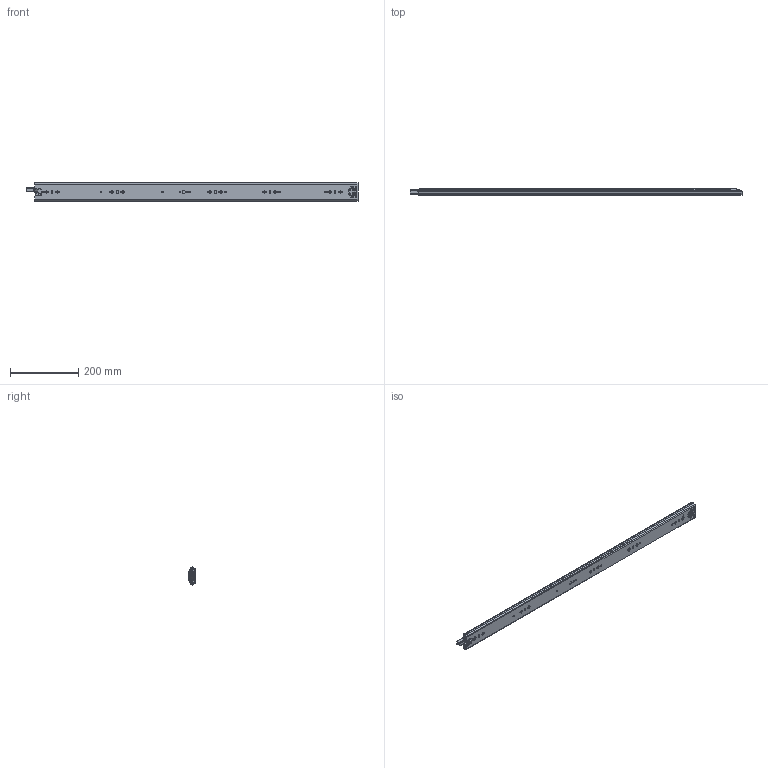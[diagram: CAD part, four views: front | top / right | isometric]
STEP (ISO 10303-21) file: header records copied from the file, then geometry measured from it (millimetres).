
FILE_DESCRIPTION((''),'2;1');
FILE_NAME('1053-3S-38YOU_ASM','2023-04-12T',('jishu015'),(''),'PRO/ENGINEER BY PARAMETRIC TECHNOLOGY CORPORATION, 2010280','PRO/ENGINEER BY PARAMETRIC TECHNOLOGY CORPORATION, 2010280','');
FILE_SCHEMA(('CONFIG_CONTROL_DESIGN'));
Products named in the file (20): 1053-02-18WAIKE______________; 1053WEIJIAO______________; 1053-3S-24WAIKE_______________ASM; 1053ZHUTIAO-175______________; 53-5-6GANZHU______________; 1053ZHUTIAO-175MM_______________ASM; 1053-02-18ZHONGGUI11; ZHONGGUIPEIJIAN____________; ZHONGGUISUOKOU____________; 1053-02-18ZHONGGUI11_ASM; 1053XIAOZHUJIA-14GE1_; 1053XIAOZHUJIA-14GE1__ASM; 1053-02-18NEIGUI______________; DAOPIAN__________; PIAN__________; 1053-3SBANJI123_________; JIAO-11_________; 50XINSUOKOU11________; 1053-02-18NEIGUI_______________ASM; 1053-3S-38YOU_ASM
Assembly tree (104 placements, depth 3):
  1053-3S-38YOU_ASM
    1053-3S-24WAIKE_______________ASM
      1053-02-18WAIKE______________
      1053WEIJIAO______________
    1053ZHUTIAO-175MM_______________ASM  x2
      1053ZHUTIAO-175______________
      53-5-6GANZHU______________
    1053-02-18ZHONGGUI11_ASM
      1053-02-18ZHONGGUI11
      ZHONGGUIPEIJIAN____________
      ZHONGGUISUOKOU____________
    1053XIAOZHUJIA-14GE1__ASM
      1053XIAOZHUJIA-14GE1_
      53-5-6GANZHU______________  x68
    1053-02-18NEIGUI_______________ASM
      1053-02-18NEIGUI______________
      DAOPIAN__________
      PIAN__________
      1053-3SBANJI123_________
      JIAO-11_________
      50XINSUOKOU11________
Bounding box: 975.42 x 18.7 x 53 mm (x, y, z)
Volume: 363258.6 mm3; surface area: 421246.3 mm2
Topology: 117 solids, 117 shells, 2834 faces, 8223 edges, 5123 vertices
Faces by surface type: cylinder 1249, plane 1131, sphere 212, bspline 117, cone 86, extrusion 23, torus 16
Entity records: 90502 total; most frequent: CARTESIAN_POINT 21949, ORIENTED_EDGE 14548, DIRECTION 14107, EDGE_CURVE 7274, AXIS2_PLACEMENT_3D 4877, VERTEX_POINT 4701, VECTOR 4353, LINE 4330
